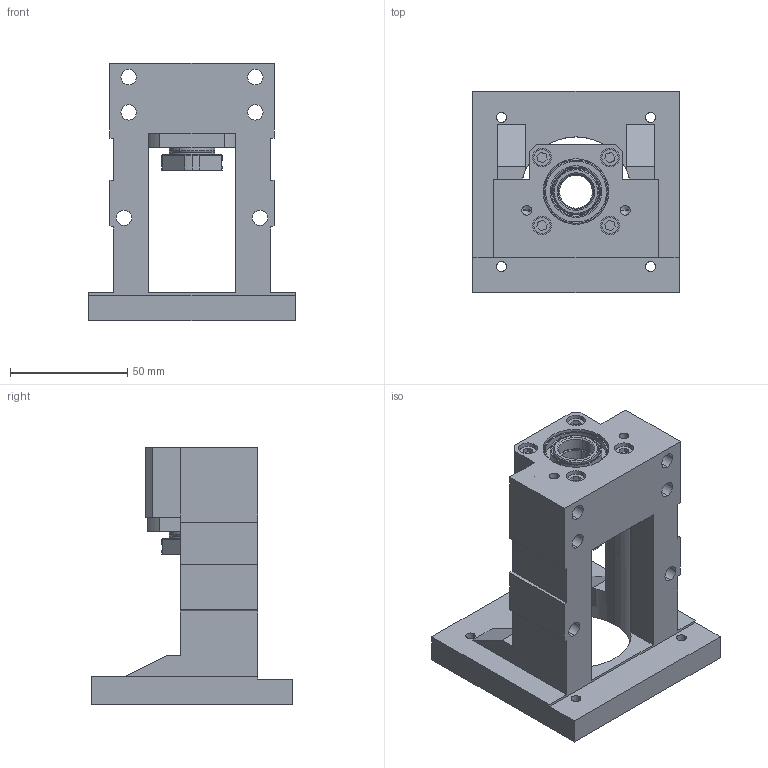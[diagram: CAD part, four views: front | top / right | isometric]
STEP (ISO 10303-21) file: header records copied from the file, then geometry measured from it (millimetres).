
FILE_DESCRIPTION (( 'STEP AP203' ), '1' );
FILE_NAME ('MBCB15M-EP轉造級.STEP', '2023-01-12T05:50:49', ( '' ), ( '' ), 'SwSTEP 2.0', 'SolidWorks 2018', '' );
FILE_SCHEMA (( 'CONFIG_CONTROL_DESIGN' ));
Length unit declared in the file: millimetre
Products named in the file (13): 7202外圈; 7202內圈; 7202保持器; BK15套筒; 7202鋼珠6.35; BK系列密封圈_BK15密封圈; 7202軸承祖合件; 鎖固螺帽(模型組態)_M15; MBCB15M-EP_3-MBCB15-EP網路圖; 螺絲_M4L30; MBCB15M-EP轉造級; EAFK15; MBC15M 軸承蓋
Assembly tree (27 placements, depth 3):
  MBCB15M-EP轉造級
    BK15套筒
    BK系列密封圈_BK15密封圈  x2
    鎖固螺帽(模型組態)_M15
    螺絲_M4L30  x4
    EAFK15
    MBC15M 軸承蓋
    7202軸承祖合件  x2
      7202外圈
      7202內圈
      7202保持器
      7202鋼珠6.35
    MBCB15M-EP_3-MBCB15-EP網路圖
Bounding box: 88 x 86 x 110 mm (x, y, z)
Volume: 191085.8 mm3; surface area: 79098 mm2
Topology: 39 solids, 39 shells, 566 faces, 1383 edges, 867 vertices
Faces by surface type: cylinder 213, plane 145, torus 104, cone 56, sphere 44, bspline 4
Entity records: 14429 total; most frequent: CARTESIAN_POINT 3662, DIRECTION 2016, ORIENTED_EDGE 1762, EDGE_CURVE 881, AXIS2_PLACEMENT_3D 821, VERTEX_POINT 547, EDGE_LOOP 470, CIRCLE 423
